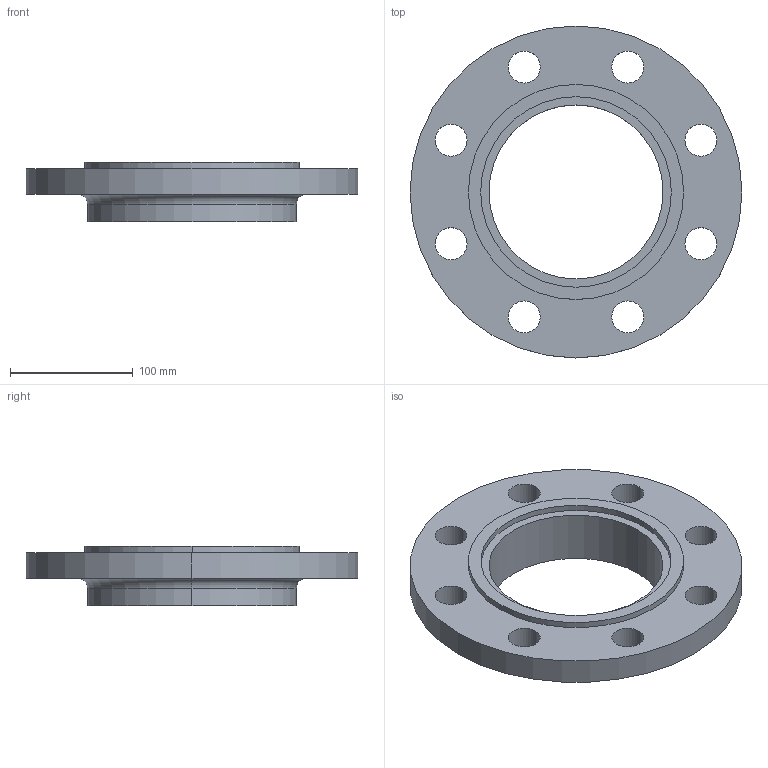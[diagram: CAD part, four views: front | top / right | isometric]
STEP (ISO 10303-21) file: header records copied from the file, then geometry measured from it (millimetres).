
FILE_DESCRIPTION (( 'STEP AP214' ), '1' );
FILE_NAME ('PN40 DN125 Type 12 - Type C Face.STEP', '2019-01-02T02:12:09', ( '' ), ( '' ), 'SwSTEP 2.0', 'SolidWorks 2019', '' );
FILE_SCHEMA (( 'AUTOMOTIVE_DESIGN' ));
Length unit declared in the file: millimetre
Products named in the file (1): PN40 DN125 Type 12 - Type C Face
Bounding box: 270 x 270 x 48 mm (x, y, z)
Volume: 969739.8 mm3; surface area: 140343.5 mm2
Topology: 1 solids, 1 shells, 33 faces, 82 edges, 54 vertices
Faces by surface type: cylinder 26, plane 5, torus 2
Entity records: 1086 total; most frequent: DIRECTION 206, CARTESIAN_POINT 170, ORIENTED_EDGE 164, AXIS2_PLACEMENT_3D 90, EDGE_CURVE 82, CIRCLE 56, VERTEX_POINT 54, EDGE_LOOP 54
